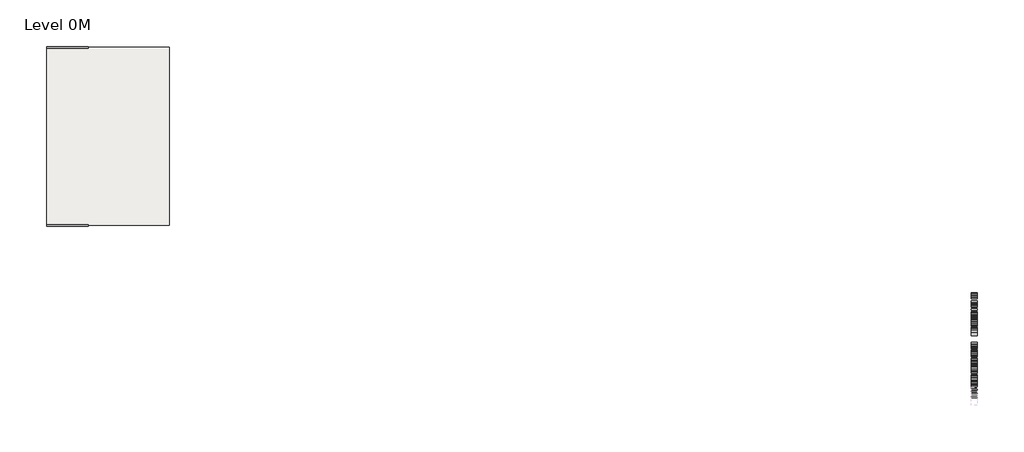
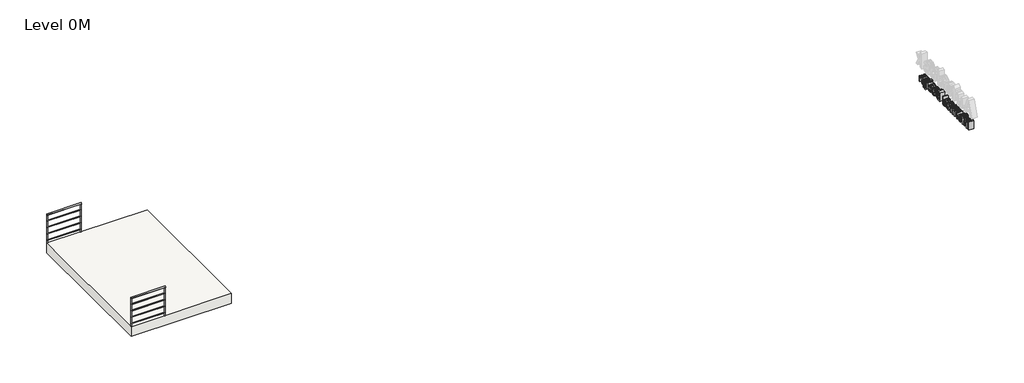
# One storey, part 1 of 2: 2 railings, 1 proxy, 1 slab.
"""IFC4 building model written with IfcOpenShell, lengths in millimetres."""

import ifcopenshell
import ifcopenshell.guid

model = None  # the IFC model being written
_history = None  # IfcOwnerHistory: only IFC2X3 demands one
_inside = {}  # id of a spatial element -> (the spatial element, [elements in it])
_under = {}  # id of a project, library or spatial element -> (it, [spatial elements below it])
_declared = {}  # id of a project -> (the project, [libraries it declares])
_typed = {}  # id of a type object -> (the type object, [elements of that type])
_made_of = {}  # id of a material, layer set ... -> (it, [elements and type objects made of it])


def new_model(schema):
    """Start an empty IFC model of exactly this schema.

    Asked for "IFC4X3", IfcOpenShell would pick the latest addendum, in which some entities
    have other attributes; the version numbers below select the first issue.
    IFC2X3 requires an IfcOwnerHistory on every rooted entity: one is made here for all.
    """
    global model, _history
    if schema == "IFC4X3":
        model = ifcopenshell.file(schema_version=(4, 3, 0, 0))
    else:
        model = ifcopenshell.file(schema=schema)
    _inside.clear()
    _under.clear()
    _declared.clear()
    _typed.clear()
    _made_of.clear()
    _history = None
    if model.schema == "IFC2X3":
        org = make("IfcOrganization", Name="unknown")
        user = make(
            "IfcPersonAndOrganization",
            ThePerson=make("IfcPerson", FamilyName="unknown"),
            TheOrganization=org,
        )
        app = make(
            "IfcApplication",
            ApplicationDeveloper=org,
            Version="unknown",
            ApplicationFullName="unknown",
            ApplicationIdentifier="unknown",
        )
        _history = make(
            "IfcOwnerHistory",
            OwningUser=user,
            OwningApplication=app,
            ChangeAction="ADDED",
            CreationDate=0,
        )
    return model


def make(cls, **values):
    """One entity of the class cls with the attributes given. An attribute that is None is left unset."""
    return model.create_entity(
        cls, **{name: value for name, value in values.items() if value is not None}
    )


def rooted(cls, **values):
    """An entity with a GlobalId (a new one), such as an element, a storey or a relation."""
    return make(cls, GlobalId=ifcopenshell.guid.new(), OwnerHistory=_history, **values)


def si_unit(unit_type, name, prefix=None):
    """IfcSIUnit, for example si_unit("LENGTHUNIT", "METRE", prefix="MILLI")."""
    return make("IfcSIUnit", UnitType=unit_type, Prefix=prefix, Name=name)


def assignment(units):
    """IfcUnitAssignment: the units of a project."""
    return None if units is None else make("IfcUnitAssignment", Units=units)


def point(xyz):
    """IfcCartesianPoint."""
    return None if xyz is None else make("IfcCartesianPoint", Coordinates=xyz)


def direction(xyz):
    """IfcDirection."""
    return None if xyz is None else make("IfcDirection", DirectionRatios=xyz)


def frame(location, z_axis=None, x_axis=None):
    """IfcAxis2Placement3D, a coordinate frame: its origin and axes. An axis left out is left unset."""
    return make(
        "IfcAxis2Placement3D",
        Location=point(location),
        Axis=direction(z_axis),
        RefDirection=direction(x_axis),
    )


def frame_2d(location, x_axis=None):
    """IfcAxis2Placement2D, a coordinate frame in the plane: its origin and x axis."""
    return make(
        "IfcAxis2Placement2D", Location=point(location), RefDirection=direction(x_axis)
    )


def origin():
    """The frame at (0, 0, 0) with its axes left unset."""
    return frame((0.0, 0.0, 0.0))


def place(relative_to, where):
    """IfcLocalPlacement: puts the frame where relative to a parent placement (None: the world)."""
    return make(
        "IfcLocalPlacement", PlacementRelTo=relative_to, RelativePlacement=where
    )


def context(
    kind, dimensions, precision=None, world=None, true_north=None, identifier=None
):
    """IfcGeometricRepresentationContext, for example the 3D "Model" context."""
    return make(
        "IfcGeometricRepresentationContext",
        ContextIdentifier=identifier,
        ContextType=kind,
        CoordinateSpaceDimension=dimensions,
        Precision=precision,
        WorldCoordinateSystem=world,
        TrueNorth=true_north,
    )


def project(units=None, contexts=None):
    """IfcProject with its units and contexts."""
    return rooted(
        "IfcProject",
        Name="project",
        RepresentationContexts=contexts,
        UnitsInContext=assignment(units),
    )


def spatial(cls, under=None, at=None, **own):
    """A site, building, storey or space (cls), placed at a placement, below another one or the project."""
    s = rooted(cls, ObjectPlacement=at, **own)
    if under is not None:
        _under.setdefault(under.id(), (under, []))[1].append(s)
    return s


def polyline(points):
    """IfcPolyline through the points."""
    return make("IfcPolyline", Points=[point(p) for p in points])


def circle_curve(where, radius):
    """IfcCircle in the frame where."""
    return make("IfcCircle", Position=where, Radius=radius)


def trimmed(basis, trim1, trim2, sense, master):
    """IfcTrimmedCurve: the piece of a basis curve between two trims."""
    return make(
        "IfcTrimmedCurve",
        BasisCurve=basis,
        Trim1=trim1,
        Trim2=trim2,
        SenseAgreement=sense,
        MasterRepresentation=master,
    )


def segment(curve, same_sense, transition):
    """IfcCompositeCurveSegment."""
    return make(
        "IfcCompositeCurveSegment",
        Transition=transition,
        SameSense=same_sense,
        ParentCurve=curve,
    )


def composite_curve(segments, self_intersect=None):
    """IfcCompositeCurve: segments joined end to end."""
    return make("IfcCompositeCurve", Segments=segments, SelfIntersect=self_intersect)


def outline(outer, holes=None, kind="AREA"):
    """IfcArbitraryClosedProfileDef: a profile drawn as a closed curve; with holes, ...WithVoids."""
    if holes is None:
        return make("IfcArbitraryClosedProfileDef", ProfileType=kind, OuterCurve=outer)
    return make(
        "IfcArbitraryProfileDefWithVoids",
        ProfileType=kind,
        OuterCurve=outer,
        InnerCurves=holes,
    )


def extrude(swept, where, along, depth):
    """IfcExtrudedAreaSolid: the profile swept, set in the frame where, extruded along a direction by depth."""
    return make(
        "IfcExtrudedAreaSolid",
        SweptArea=swept,
        Position=where,
        ExtrudedDirection=direction(along),
        Depth=depth,
    )


def shape(context_of_items, identifier, shape_type, items):
    """IfcShapeRepresentation: the items that make up one representation, for example the "Body"."""
    return make(
        "IfcShapeRepresentation",
        ContextOfItems=context_of_items,
        RepresentationIdentifier=identifier,
        RepresentationType=shape_type,
        Items=items,
    )


def made_of(thing, what):
    """Note that an element or type object is made of a material, layer set ...; save() writes the relation."""
    if what is not None:
        _made_of.setdefault(what.id(), (what, []))[1].append(thing)
    return thing


def element(
    cls,
    number,
    at=None,
    inside=None,
    cuts=None,
    type_object=None,
    material=None,
    context=None,
    identifier="Body",
    shape_type=None,
    held_by="IfcProductDefinitionShape",
    body=None,
    shapes=None,
    **own,
):
    """One element of the class cls, such as IfcWall. Its Tag is "e" and its number.

    at: its placement. inside: the storey or other place that contains it. cuts: it is an
    opening in that element (IfcRelVoidsElement). A single representation is given by context,
    identifier, shape_type and body (its items); several are given by shapes. held_by: the class
    of the entity that holds the representations. save() writes the other relations.
    """
    e = rooted(cls, Tag="e%d" % number, ObjectPlacement=at, **own)
    if body is not None:
        shapes = [shape(context, identifier, shape_type, body)]
    if shapes is not None:
        e.Representation = make(held_by, Representations=shapes)
    if inside is not None:
        _inside.setdefault(inside.id(), (inside, []))[1].append(e)
    if cuts is not None:
        rooted(
            "IfcRelVoidsElement", RelatingBuildingElement=cuts, RelatedOpeningElement=e
        )
    if type_object is not None:
        _typed.setdefault(type_object.id(), (type_object, []))[1].append(e)
    return made_of(e, material)


def aggregate(whole, parts):
    """IfcRelAggregates: a whole, such as a stair, and the parts it consists of."""
    return rooted("IfcRelAggregates", RelatingObject=whole, RelatedObjects=parts)


def save(model, path):
    """Write the relations noted so far, then the file.

    IfcRelAggregates (storeys below a building ...), IfcRelContainedInSpatialStructure (elements
    in a storey), IfcRelDefinesByType, IfcRelAssociatesMaterial and IfcRelDeclares: one each for
    every whole, place, type object, material and project.
    """
    for whole, parts in _under.values():
        aggregate(whole, parts)
    for where, things in _inside.values():
        rooted(
            "IfcRelContainedInSpatialStructure",
            RelatedElements=things,
            RelatingStructure=where,
        )
    for kind, things in _typed.values():
        rooted("IfcRelDefinesByType", RelatedObjects=things, RelatingType=kind)
    for what, things in _made_of.values():
        rooted("IfcRelAssociatesMaterial", RelatedObjects=things, RelatingMaterial=what)
    for by, libraries in _declared.values():
        rooted("IfcRelDeclares", RelatingContext=by, RelatedDefinitions=libraries)
    model.write(path)


model = new_model("IFC4")

# Units and contexts
model_context = context("Model", 3, world=origin())
ifc_project = project(units=[si_unit("LENGTHUNIT", "METRE", prefix="MILLI")], contexts=[model_context])

# Site, building, storey
site = spatial("IfcSite", under=ifc_project)
building = spatial("IfcBuilding", under=site)
storey = spatial("IfcBuildingStorey", under=building, Name="Level 0M", Elevation=1135.0)

# Proxy
placement = place(None, origin())
element("IfcBuildingElementProxy", 1, Name="250", ObjectType="250", at=placement, inside=storey, context=model_context, shape_type="SweptSolid", body=[
    extrude(outline(polyline([(17655.7942367, -2656.7308026), (17655.7942367, -2688.1233995), (17505.7942367, -2688.1233995), (17505.7942367, -2656.7308026), (17655.7942367, -2656.7308026)])), frame((0.0, 0.0, 1964.8009555), z_axis=(0.0, 0.0, 1.0), x_axis=(1.0, 0.0, 0.0)), (0.0, 0.0, 1.0), 251.1407754),
    extrude(outline(polyline([(-2597.8696834, 1964.8009555), (-2597.8696834, 2149.2324624), (-2566.4770865, 2149.2324624), (-2566.4770865, 2123.4807227), (-2555.5709182, 2136.4638915), (-2542.4727863, 2145.7375834), (-2527.1826909, 2151.3017986), (-2509.7006319, 2153.156537), (-2494.2265955, 2151.6620164), (-2480.0554744, 2147.1784546), (-2468.2372653, 2140.2653388), (-2459.8219647, 2131.4821561), (-2450.410317, 2108.3975609), (-2448.754848, 2078.0472963), (-2448.754848, 1964.8009555), (-2480.1474449, 1964.8009555), (-2480.1474449, 2073.8166534), (-2483.7649512, 2101.591744), (-2488.7696792, 2109.8614247), (-2496.5488506, 2116.276367), (-2518.1006041, 2121.7639401), (-2536.4870397, 2118.6829284), (-2552.1603455, 2109.4398932), (-2562.8979012, 2091.5822881), (-2566.4770865, 2062.6575662), (-2566.4770865, 1964.8009555), (-2597.8696834, 1964.8009555)])), frame((17505.7942367, 0.0, 0.0), z_axis=(1.0, 0.0, 0.0), x_axis=(0.0, 1.0, 0.0)), (0.0, 0.0, 1.0), 150.0),
    extrude(outline(polyline([(-2397.741878, 1964.8009555), (-2397.741878, 2117.8398655), (-2425.2104003, 2117.8398655), (-2425.2104003, 2149.2324624), (-2397.741878, 2149.2324624), (-2397.741878, 2167.8105031), (-2394.4309401, 2193.9914385), (-2388.1156325, 2204.4300901), (-2378.3667596, 2212.6921066), (-2364.724469, 2218.0723807), (-2346.728908, 2219.8658055), (-2318.0954261, 2216.4322402), (-2322.693951, 2187.0016806), (-2340.7814824, 2188.4732085), (-2352.7146547, 2187.1702931), (-2360.5551397, 2183.2615469), (-2364.9007457, 2175.7966081), (-2366.3492811, 2163.8251149), (-2366.3492811, 2149.2324624), (-2331.0326096, 2149.2324624), (-2331.0326096, 2117.8398655), (-2366.3492811, 2117.8398655), (-2366.3492811, 1964.8009555), (-2397.741878, 1964.8009555)])), frame((17505.7942367, 0.0, 0.0), z_axis=(1.0, 0.0, 0.0), x_axis=(0.0, 1.0, 0.0)), (0.0, 0.0, 1.0), 150.0),
    extrude(outline(polyline([(-2311.4122365, 2057.0167089), (-2309.7146144, 2080.9022139), (-2304.621748, 2101.4844451), (-2296.1336374, 2118.7634026), (-2284.2502825, 2132.7390863), (-2259.0810227, 2148.0521743), (-2228.9453559, 2153.156537), (-2211.6261613, 2151.6026188), (-2195.9662679, 2146.9408641), (-2181.9656755, 2139.171273), (-2169.6243842, 2128.2938455), (-2159.5516985, 2114.6764635), (-2152.356923, 2098.6870091), (-2148.0400577, 2080.3254822), (-2146.6011026, 2059.5918829), (-2149.1456198, 2027.8773892), (-2156.7791712, 2003.7351333), (-2169.2794948, 1985.6552661), (-2186.4243286, 1972.1279385), (-2206.7881299, 1963.6896453), (-2228.9453559, 1960.8768809), (-2246.5174693, 1962.4250509), (-2262.3229828, 1967.0695611), (-2276.3618962, 1974.8104114), (-2288.6342096, 1985.6476019), (-2298.5995964, 1999.3971914), (-2305.7177298, 2015.8752391), (-2309.9886098, 2035.081745), (-2311.4122365, 2057.0167089)]), holes=[polyline([(-2280.0196396, 2057.0780226), (-2276.3868049, 2028.6668027), (-2265.4883008, 2008.4256287), (-2249.0868951, 1996.3085155), (-2228.9453559, 1992.2694778), (-2208.8957872, 1996.3315081), (-2192.5250384, 2008.5175992), (-2181.6265343, 2029.0270205), (-2177.9936996, 2058.0590412), (-2181.6495269, 2085.6425267), (-2192.6170089, 2105.6077891), (-2209.0107503, 2117.7249023), (-2228.9453559, 2121.7639401), (-2249.0868951, 2117.7402308), (-2265.4883008, 2105.6691028), (-2276.3868049, 2085.4739141), (-2280.0196396, 2057.0780226)])]), frame((17505.7942367, 0.0, 0.0), z_axis=(1.0, 0.0, 0.0), x_axis=(0.0, 1.0, 0.0)), (0.0, 0.0, 1.0), 150.0),
    extrude(outline(polyline([(-2111.2844311, 1964.8009555), (-2111.2844311, 2149.2324624), (-2083.8159088, 2149.2324624), (-2083.8159088, 2121.9478811), (-2073.6684971, 2137.7668069), (-2064.3181631, 2147.0864841), (-2044.69779, 2153.156537), (-2029.0628052, 2150.7346472), (-2013.1825657, 2143.4689778), (-2023.6672026, 2115.3260052), (-2045.7401223, 2121.7639401), (-2055.113449, 2120.21577), (-2063.4904286, 2115.5712598), (-2074.8027999, 2098.4034334), (-2079.8918342, 2061.7378612), (-2079.8918342, 1964.8009555), (-2111.2844311, 1964.8009555)])), frame((17505.7942367, 0.0, 0.0), z_axis=(1.0, 0.0, 0.0), x_axis=(0.0, 1.0, 0.0)), (0.0, 0.0, 1.0), 150.0),
    extrude(outline(polyline([(-1993.5621927, 1964.8009555), (-1993.5621927, 2149.2324624), (-1962.1695957, 2149.2324624), (-1962.1695957, 2118.8821978), (-1952.7272912, 2132.8233926), (-1940.5871854, 2143.7448893), (-1926.1631455, 2150.8036251), (-1909.8690388, 2153.156537), (-1892.4099724, 2150.7576398), (-1878.4151282, 2143.5609483), (-1867.9611481, 2132.0416433), (-1861.1246744, 2116.6749058), (-1849.6820115, 2132.6356195), (-1836.6298649, 2144.0361292), (-1821.9682345, 2150.8764351), (-1805.6971205, 2153.156537), (-1782.0990233, 2149.3627539), (-1764.6476212, 2137.9814047), (-1753.8640802, 2118.705921), (-1750.2695665, 2091.2297345), (-1750.2695665, 1964.8009555), (-1781.6621634, 1964.8009555), (-1781.6621634, 2077.740728), (-1784.5745626, 2103.9523201), (-1795.1205131, 2116.8588468), (-1813.0547604, 2121.7639401), (-1830.0616384, 2118.6216147), (-1843.9261911, 2109.1946386), (-1853.1462336, 2092.8392182), (-1856.2195811, 2068.9115601), (-1856.2195811, 1964.8009555), (-1887.612178, 1964.8009555), (-1887.612178, 2081.2356069), (-1889.4285954, 2098.9859132), (-1894.8778475, 2111.6471852), (-1904.4657719, 2119.2347514), (-1918.6982066, 2121.7639401), (-1930.7923272, 2120.0778143), (-1941.936086, 2115.0194368), (-1951.1331359, 2106.7114351), (-1957.3871298, 2095.2764364), (-1962.1695957, 2057.8137866), (-1962.1695957, 1964.8009555), (-1993.5621927, 1964.8009555)])), frame((17505.7942367, 0.0, 0.0), z_axis=(1.0, 0.0, 0.0), x_axis=(0.0, 1.0, 0.0)), (0.0, 0.0, 1.0), 150.0),
    extrude(outline(polyline([(-1574.0540908, 2019.7380001), (-1543.2746306, 2015.8139255), (-1554.3647399, 1992.6220314), (-1572.0613967, 1975.2855923), (-1595.9660622, 1964.4790587), (-1625.6801975, 1960.8768809), (-1645.1587827, 1962.4307991), (-1662.5143822, 1967.0925537), (-1677.7469961, 1974.8621448), (-1690.8566243, 1985.7395724), (-1701.3987427, 1999.4221001), (-1708.9288273, 2015.6069918), (-1713.4468781, 2034.2942476), (-1714.952895, 2055.4838673), (-1713.4315496, 2077.3920065), (-1708.8675136, 2096.7019792), (-1701.260787, 2113.4137852), (-1690.6113696, 2127.5274247), (-1677.5362304, 2138.7401613), (-1662.652338, 2146.7492589), (-1645.9596925, 2151.5547175), (-1627.4582938, 2153.156537), (-1609.5527873, 2151.5585496), (-1593.3602314, 2146.7645873), (-1578.880626, 2138.7746503), (-1566.1139711, 2127.5887383), (-1555.6925639, 2113.5057557), (-1548.2487017, 2096.8246065), (-1543.7823844, 2077.5452907), (-1542.2936119, 2055.6678083), (-1542.4775529, 2047.2065224), (-1683.5602981, 2047.2065224), (-1678.1263744, 2023.70806), (-1665.5034235, 2006.4329346), (-1647.2856005, 1995.810342), (-1625.0670608, 1992.2694778), (-1608.3590869, 1993.9096183), (-1594.2876006, 1998.83004), (-1582.8526019, 2007.3373112), (-1574.0540908, 2019.7380001)]), holes=[polyline([(-1683.5602981, 2078.5991193), (-1573.6862088, 2078.5991193), (-1577.9321802, 2095.1844659), (-1586.2555103, 2107.0486603), (-1604.5576396, 2118.0851201), (-1627.5809211, 2121.7639401), (-1648.7418001, 2118.8285483), (-1666.2391874, 2110.0223731), (-1678.4022859, 2096.2957761), (-1683.5602981, 2078.5991193)])]), frame((17505.7942367, 0.0, 0.0), z_axis=(1.0, 0.0, 0.0), x_axis=(0.0, 1.0, 0.0)), (0.0, 0.0, 1.0), 150.0),
    extrude(outline(polyline([(-1397.1028511, 1964.8009555), (-1397.1028511, 1994.4154561), (-1406.4953383, 1979.7423294), (-1417.8728555, 1969.2615247), (-1431.2354025, 1962.9730418), (-1446.5829795, 1960.8768809), (-1466.8778029, 1963.9119073), (-1485.4558437, 1973.0169867), (-1501.1827989, 1987.5559897), (-1512.924366, 2006.8927871), (-1520.2360206, 2030.2456296), (-1522.6732388, 2056.8327679), (-1520.4276258, 2083.0903453), (-1513.6907868, 2106.8034056), (-1502.4703859, 2126.6230481), (-1486.7740875, 2141.2003722), (-1467.7898437, 2150.1674958), (-1446.7056068, 2153.156537), (-1431.3465335, 2151.0182229), (-1417.7655565, 2144.6032806), (-1406.2539158, 2134.7701015), (-1397.1028511, 2122.3770767), (-1397.1028511, 2215.9417308), (-1365.7102542, 2215.9417308), (-1365.7102542, 1964.8009555), (-1397.1028511, 1964.8009555)]), holes=[polyline([(-1491.2806419, 2056.9553953), (-1487.7397777, 2028.5595038), (-1477.1171851, 2008.3643151), (-1461.6814697, 1996.2931871), (-1443.7012372, 1992.2694778), (-1425.7286689, 1996.1092461), (-1410.6838281, 2007.6285511), (-1400.4980954, 2027.0419905), (-1397.1028511, 2054.5641623), (-1400.5594091, 2084.6538438), (-1410.9290828, 2105.5158186), (-1426.357134, 2117.7019097), (-1444.9888242, 2121.7639401), (-1463.1529977, 2117.8628581), (-1478.0368901, 2106.1596121), (-1487.969704, 2086.0563939), (-1491.2806419, 2056.9553953)])]), frame((17505.7942367, 0.0, 0.0), z_axis=(1.0, 0.0, 0.0), x_axis=(0.0, 1.0, 0.0)), (0.0, 0.0, 1.0), 150.0),
    extrude(outline(polyline([(-1216.5954188, 1964.8009555), (-1216.5954188, 2215.9417308), (-1129.959209, 2215.9417308), (-1085.1389192, 2212.3242246), (-1065.1200073, 2205.3497951), (-1048.2280924, 2194.3593205), (-1030.8609965, 2175.2294567), (-1018.4909644, 2151.4397544), (-1011.0873393, 2123.4500659), (-1008.6194642, 2091.7202438), (-1010.2902616, 2064.7652235), (-1015.3026538, 2041.044499), (-1022.9362052, 2020.8493103), (-1032.4704803, 2004.4708973), (-1055.4017913, 1981.6928704), (-1085.4148307, 1969.0929121), (-1125.7898797, 1964.8009555), (-1216.5954188, 1964.8009555)]), holes=[polyline([(-1185.2028219, 1996.1935524), (-1129.6526406, 1996.1935524), (-1089.2469348, 2000.7307637), (-1065.9477418, 2013.5453198), (-1055.0415735, 2027.133961), (-1046.8485349, 2044.7233189), (-1041.7211796, 2066.3900356), (-1040.0120612, 2092.2107531), (-1043.3613202, 2126.4237787), (-1053.4090971, 2151.685009), (-1068.2546685, 2169.0367765), (-1085.9973106, 2179.5214133), (-1104.0541852, 2183.2922038), (-1130.511032, 2184.5491339), (-1185.2028219, 2184.5491339), (-1185.2028219, 1996.1935524)])]), frame((17505.7942367, 0.0, 0.0), z_axis=(1.0, 0.0, 0.0), x_axis=(0.0, 1.0, 0.0)), (0.0, 0.0, 1.0), 150.0),
    extrude(outline(polyline([(-840.2521378, 2019.7380001), (-809.4726775, 2015.8139255), (-820.5627868, 1992.6220314), (-838.2594436, 1975.2855923), (-862.1641091, 1964.4790587), (-891.8782444, 1960.8768809), (-911.3568297, 1962.4307991), (-928.7124292, 1967.0925537), (-943.9450431, 1974.8621448), (-957.0546712, 1985.7395724), (-967.5967897, 1999.4221001), (-975.1268743, 2015.6069918), (-979.644925, 2034.2942476), (-981.1509419, 2055.4838673), (-979.6295966, 2077.3920065), (-975.0655606, 2096.7019792), (-967.4588339, 2113.4137852), (-956.8094166, 2127.5274247), (-943.7342773, 2138.7401613), (-928.8503849, 2146.7492589), (-912.1577394, 2151.5547175), (-893.6563407, 2153.156537), (-875.7508343, 2151.5585496), (-859.5582783, 2146.7645873), (-845.0786729, 2138.7746503), (-832.312018, 2127.5887383), (-821.8906109, 2113.5057557), (-814.4467487, 2096.8246065), (-809.9804313, 2077.5452907), (-808.4916589, 2055.6678083), (-808.6755999, 2047.2065224), (-949.758345, 2047.2065224), (-944.3244214, 2023.70806), (-931.7014704, 2006.4329346), (-913.4836474, 1995.810342), (-891.2651078, 1992.2694778), (-874.5571338, 1993.9096183), (-860.4856475, 1998.83004), (-849.0506488, 2007.3373112), (-840.2521378, 2019.7380001)]), holes=[polyline([(-949.758345, 2078.5991193), (-839.8842558, 2078.5991193), (-844.1302271, 2095.1844659), (-852.4535573, 2107.0486603), (-870.7556865, 2118.0851201), (-893.7789681, 2121.7639401), (-914.939847, 2118.8285483), (-932.4372344, 2110.0223731), (-944.6003329, 2096.2957761), (-949.758345, 2078.5991193)])]), frame((17505.7942367, 0.0, 0.0), z_axis=(1.0, 0.0, 0.0), x_axis=(0.0, 1.0, 0.0)), (0.0, 0.0, 1.0), 150.0),
    extrude(outline(polyline([(-788.8712858, 2019.7380001), (-757.4786889, 2023.6620747), (-752.5276103, 2010.2343819), (-742.9473501, 2000.3628817), (-728.6765943, 1994.2928288), (-709.6540295, 1992.2694778), (-690.8613909, 1994.1242162), (-677.6482959, 1999.6884313), (-669.8308035, 2007.7511784), (-667.2249727, 2017.1015125), (-669.8461319, 2025.1029458), (-677.7096096, 2031.2036556), (-710.0219115, 2040.1554508), (-757.2947479, 2055.5145241), (-769.2585769, 2063.2323818), (-777.9267964, 2073.4487714), (-783.1921075, 2085.5122351), (-784.9472112, 2098.7713154), (-779.3063539, 2122.1624789), (-763.9166238, 2140.0354125), (-743.9590255, 2149.3244329), (-716.9503557, 2153.156537), (-696.5175766, 2151.6160311), (-678.7519419, 2146.9945136), (-664.4658577, 2139.7441726), (-654.4717302, 2130.3171965), (-647.8498543, 2118.0161423), (-643.680525, 2102.143567), (-675.0731219, 2098.2194924), (-679.0355176, 2108.0986568), (-686.8760026, 2115.540603), (-698.6712191, 2120.2081058), (-714.4978091, 2121.7639401), (-732.5240269, 2120.2770837), (-744.5415054, 2115.8165145), (-751.301337, 2109.3785796), (-753.5546142, 2101.959626), (-749.8144806, 2092.8238898), (-738.1035704, 2085.8954456), (-711.0642438, 2079.212256), (-664.9870239, 2064.4356625), (-652.8162612, 2057.3692625), (-643.5885545, 2047.6970317), (-637.7714205, 2035.3883133), (-635.8323758, 2020.4124504), (-638.1086456, 2004.9307498), (-644.9374552, 1990.3687541), (-656.0582213, 1977.8684305), (-671.210361, 1968.5717459), (-689.5124903, 1962.8005971), (-710.0832252, 1960.8768809), (-741.7364052, 1964.5863576), (-764.8363288, 1975.714788), (-780.2567157, 1994.1395446), (-788.8712858, 2019.7380001)])), frame((17505.7942367, 0.0, 0.0), z_axis=(1.0, 0.0, 0.0), x_axis=(0.0, 1.0, 0.0)), (0.0, 0.0, 1.0), 150.0),
    extrude(outline(polyline([(17655.7942367, -569.1231073), (17655.7942367, -600.5157043), (17505.7942367, -600.5157043), (17505.7942367, -569.1231073), (17655.7942367, -569.1231073)])), frame((0.0, 0.0, 2184.5491339), z_axis=(0.0, 0.0, 1.0), x_axis=(1.0, 0.0, 0.0)), (0.0, 0.0, 1.0), 31.3925969),
    extrude(outline(polyline([(17655.7942367, -569.1231073), (17655.7942367, -600.5157043), (17505.7942367, -600.5157043), (17505.7942367, -569.1231073), (17655.7942367, -569.1231073)])), frame((0.0, 0.0, 1964.8009555), z_axis=(0.0, 0.0, 1.0), x_axis=(1.0, 0.0, 0.0)), (0.0, 0.0, 1.0), 184.4315069),
    extrude(outline(polyline([(-529.8823612, 1949.104657), (-498.4897643, 1945.1805824), (-495.0255421, 1935.3703959), (-488.3116957, 1928.6258926), (-475.1139291, 1923.3835742), (-457.8388038, 1921.6361347), (-439.4140472, 1923.6135004), (-425.7104429, 1929.5455976), (-416.2068247, 1939.0492158), (-410.3820264, 1951.7411446), (-408.2360481, 1988.3454032), (-430.3396247, 1970.6870674), (-457.2869808, 1964.8009555), (-474.4988764, 1966.513906), (-489.6529322, 1971.6527576), (-502.749148, 1980.2175103), (-513.7875239, 1992.2081641), (-528.8017078, 2022.3438309), (-533.8064358, 2057.9364139), (-531.5608228, 2083.2819505), (-524.8239837, 2106.5888078), (-513.8335091, 2126.3394724), (-498.8269894, 2141.0164312), (-480.3179265, 2150.1215105), (-458.8198224, 2153.156537), (-444.1390316, 2151.4397544), (-430.8148056, 2146.2894064), (-418.8471444, 2137.7054932), (-408.2360481, 2125.6880147), (-408.2360481, 2149.2324624), (-376.8434512, 2149.2324624), (-376.8434512, 1990.0008721), (-378.9894295, 1953.2356652), (-385.4273644, 1929.0244314), (-396.5174737, 1912.9679152), (-412.6199752, 1900.666861), (-433.3823153, 1892.8493686), (-458.4519404, 1890.2435378), (-487.660238, 1893.9146935), (-510.6605269, 1904.9281608), (-525.4141278, 1923.3145963), (-529.8823612, 1949.104657)]), holes=[polyline([(-502.4138389, 2060.0823922), (-499.0645799, 2031.2879619), (-489.0168029, 2011.491312), (-473.9106485, 2000.0179923), (-455.3862572, 1996.1935524), (-436.9998216, 1999.9949997), (-421.8170251, 2011.3993415), (-411.6312924, 2030.9430725), (-408.2360481, 2059.1626872), (-411.7309271, 2086.3782907), (-422.2155639, 2105.9756711), (-437.6206225, 2117.8168728), (-455.8767665, 2121.7639401), (-473.8033495, 2117.8781865), (-488.8328619, 2106.2209258), (-499.0185946, 2086.9147852), (-502.4138389, 2060.0823922)])]), frame((17505.7942367, 0.0, 0.0), z_axis=(1.0, 0.0, 0.0), x_axis=(0.0, 1.0, 0.0)), (0.0, 0.0, 1.0), 150.0),
    extrude(outline(polyline([(-329.7545558, 1964.8009555), (-329.7545558, 2149.2324624), (-298.3619589, 2149.2324624), (-298.3619589, 2123.4807227), (-287.4557906, 2136.4638915), (-274.3576587, 2145.7375834), (-259.0675633, 2151.3017986), (-241.5855043, 2153.156537), (-226.1114679, 2151.6620164), (-211.9403468, 2147.1784546), (-200.1221378, 2140.2653388), (-191.7068371, 2131.4821561), (-182.2951894, 2108.3975609), (-180.6397204, 2078.0472963), (-180.6397204, 1964.8009555), (-212.0323173, 1964.8009555), (-212.0323173, 2073.8166534), (-215.6498236, 2101.591744), (-220.6545516, 2109.8614247), (-228.433723, 2116.276367), (-249.9854765, 2121.7639401), (-268.3719121, 2118.6829284), (-284.0452179, 2109.4398932), (-294.7827736, 2091.5822881), (-298.3619589, 2062.6575662), (-298.3619589, 1964.8009555), (-329.7545558, 1964.8009555)])), frame((17505.7942367, 0.0, 0.0), z_axis=(1.0, 0.0, 0.0), x_axis=(0.0, 1.0, 0.0)), (0.0, 0.0, 1.0), 150.0),
])

# Railings
element("IfcRailing", 2, ObjectType="900mm_Pipe", at=placement, inside=storey, context=model_context, shape_type="SweptSolid", body=[
    extrude(outline(composite_curve([segment(trimmed(circle_curve(frame_2d((5673.9025486, 2015.0)), 20.0), [point((5653.9025486, 2015.0))], [point((5693.9025486, 2015.0))], False, "CARTESIAN"), True, "CONTINUOUS"), segment(trimmed(circle_curve(frame_2d((5673.9025486, 2015.0)), 20.0), [point((5693.9025486, 2015.0))], [point((5653.9025486, 2015.0))], False, "CARTESIAN"), True, "CONTINUOUS")], self_intersect=False)), frame((-4569.2057633, 0.0, 0.0), z_axis=(1.0, 0.0, 0.0), x_axis=(0.0, 1.0, 0.0)), (0.0, 0.0, 1.0), 1000.0),
    extrude(outline(composite_curve([segment(trimmed(circle_curve(frame_2d((5673.9025486, 1825.0)), 10.0), [point((5683.9025486, 1825.0))], [point((5663.9025486, 1825.0))], False, "CARTESIAN"), True, "CONTINUOUS"), segment(trimmed(circle_curve(frame_2d((5673.9025486, 1825.0)), 10.0), [point((5663.9025486, 1825.0))], [point((5683.9025486, 1825.0))], False, "CARTESIAN"), True, "CONTINUOUS")], self_intersect=False)), frame((-4569.2057633, 0.0, 0.0), z_axis=(1.0, 0.0, 0.0), x_axis=(0.0, 1.0, 0.0)), (0.0, 0.0, 1.0), 1000.0),
    extrude(outline(composite_curve([segment(trimmed(circle_curve(frame_2d((5673.9025486, 1625.0)), 10.0), [point((5683.9025486, 1625.0))], [point((5663.9025486, 1625.0))], False, "CARTESIAN"), True, "CONTINUOUS"), segment(trimmed(circle_curve(frame_2d((5673.9025486, 1625.0)), 10.0), [point((5663.9025486, 1625.0))], [point((5683.9025486, 1625.0))], False, "CARTESIAN"), True, "CONTINUOUS")], self_intersect=False)), frame((-4569.2057633, 0.0, 0.0), z_axis=(1.0, 0.0, 0.0), x_axis=(0.0, 1.0, 0.0)), (0.0, 0.0, 1.0), 1000.0),
    extrude(outline(composite_curve([segment(trimmed(circle_curve(frame_2d((5673.9025486, 1425.0)), 10.0), [point((5683.9025486, 1425.0))], [point((5663.9025486, 1425.0))], False, "CARTESIAN"), True, "CONTINUOUS"), segment(trimmed(circle_curve(frame_2d((5673.9025486, 1425.0)), 10.0), [point((5663.9025486, 1425.0))], [point((5683.9025486, 1425.0))], False, "CARTESIAN"), True, "CONTINUOUS")], self_intersect=False)), frame((-4569.2057633, 0.0, 0.0), z_axis=(1.0, 0.0, 0.0), x_axis=(0.0, 1.0, 0.0)), (0.0, 0.0, 1.0), 1000.0),
    extrude(outline(composite_curve([segment(trimmed(circle_curve(frame_2d((5673.9025486, 1225.0)), 10.0), [point((5683.9025486, 1225.0))], [point((5663.9025486, 1225.0))], False, "CARTESIAN"), True, "CONTINUOUS"), segment(trimmed(circle_curve(frame_2d((5673.9025486, 1225.0)), 10.0), [point((5663.9025486, 1225.0))], [point((5683.9025486, 1225.0))], False, "CARTESIAN"), True, "CONTINUOUS")], self_intersect=False)), frame((-4569.2057633, 0.0, 0.0), z_axis=(1.0, 0.0, 0.0), x_axis=(0.0, 1.0, 0.0)), (0.0, 0.0, 1.0), 1000.0),
    extrude(outline(composite_curve([segment(trimmed(circle_curve(frame_2d((-3581.7057633, 5673.9025486)), 12.5), [point((-3581.7057633, 5686.4025486))], [point((-3581.7057633, 5661.4025486))], False, "CARTESIAN"), True, "CONTINUOUS"), segment(trimmed(circle_curve(frame_2d((-3581.7057633, 5673.9025486)), 12.5), [point((-3581.7057633, 5661.4025486))], [point((-3581.7057633, 5686.4025486))], False, "CARTESIAN"), True, "CONTINUOUS")], self_intersect=False)), frame((0.0, 0.0, 1135.0), z_axis=(0.0, 0.0, 1.0), x_axis=(1.0, 0.0, 0.0)), (0.0, 0.0, 1.0), 860.0),
    extrude(outline(composite_curve([segment(trimmed(circle_curve(frame_2d((-4556.7057633, 5673.9025486)), 12.5), [point((-4556.7057633, 5686.4025486))], [point((-4556.7057633, 5661.4025486))], False, "CARTESIAN"), True, "CONTINUOUS"), segment(trimmed(circle_curve(frame_2d((-4556.7057633, 5673.9025486)), 12.5), [point((-4556.7057633, 5661.4025486))], [point((-4556.7057633, 5686.4025486))], False, "CARTESIAN"), True, "CONTINUOUS")], self_intersect=False)), frame((0.0, 0.0, 1135.0), z_axis=(0.0, 0.0, 1.0), x_axis=(1.0, 0.0, 0.0)), (0.0, 0.0, 1.0), 860.0),
])
element("IfcRailing", 3, ObjectType="900mm_Pipe", at=placement, inside=storey, context=model_context, shape_type="SweptSolid", body=[
    extrude(outline(composite_curve([segment(trimmed(circle_curve(frame_2d((1424.3025492, 2015.0)), 20.0), [point((1404.3025492, 2015.0))], [point((1444.3025492, 2015.0))], False, "CARTESIAN"), True, "CONTINUOUS"), segment(trimmed(circle_curve(frame_2d((1424.3025492, 2015.0)), 20.0), [point((1444.3025492, 2015.0))], [point((1404.3025492, 2015.0))], False, "CARTESIAN"), True, "CONTINUOUS")], self_intersect=False)), frame((-4569.2057633, 0.0, 0.0), z_axis=(1.0, 0.0, 0.0), x_axis=(0.0, 1.0, 0.0)), (0.0, 0.0, 1.0), 1000.0),
    extrude(outline(composite_curve([segment(trimmed(circle_curve(frame_2d((1424.3025492, 1825.0)), 10.0), [point((1434.3025492, 1825.0))], [point((1414.3025492, 1825.0))], False, "CARTESIAN"), True, "CONTINUOUS"), segment(trimmed(circle_curve(frame_2d((1424.3025492, 1825.0)), 10.0), [point((1414.3025492, 1825.0))], [point((1434.3025492, 1825.0))], False, "CARTESIAN"), True, "CONTINUOUS")], self_intersect=False)), frame((-4569.2057633, 0.0, 0.0), z_axis=(1.0, 0.0, 0.0), x_axis=(0.0, 1.0, 0.0)), (0.0, 0.0, 1.0), 1000.0),
    extrude(outline(composite_curve([segment(trimmed(circle_curve(frame_2d((1424.3025492, 1625.0)), 10.0), [point((1434.3025492, 1625.0))], [point((1414.3025492, 1625.0))], False, "CARTESIAN"), True, "CONTINUOUS"), segment(trimmed(circle_curve(frame_2d((1424.3025492, 1625.0)), 10.0), [point((1414.3025492, 1625.0))], [point((1434.3025492, 1625.0))], False, "CARTESIAN"), True, "CONTINUOUS")], self_intersect=False)), frame((-4569.2057633, 0.0, 0.0), z_axis=(1.0, 0.0, 0.0), x_axis=(0.0, 1.0, 0.0)), (0.0, 0.0, 1.0), 1000.0),
    extrude(outline(composite_curve([segment(trimmed(circle_curve(frame_2d((1424.3025492, 1425.0)), 10.0), [point((1434.3025492, 1425.0))], [point((1414.3025492, 1425.0))], False, "CARTESIAN"), True, "CONTINUOUS"), segment(trimmed(circle_curve(frame_2d((1424.3025492, 1425.0)), 10.0), [point((1414.3025492, 1425.0))], [point((1434.3025492, 1425.0))], False, "CARTESIAN"), True, "CONTINUOUS")], self_intersect=False)), frame((-4569.2057633, 0.0, 0.0), z_axis=(1.0, 0.0, 0.0), x_axis=(0.0, 1.0, 0.0)), (0.0, 0.0, 1.0), 1000.0),
    extrude(outline(composite_curve([segment(trimmed(circle_curve(frame_2d((1424.3025492, 1225.0)), 10.0), [point((1434.3025492, 1225.0))], [point((1414.3025492, 1225.0))], False, "CARTESIAN"), True, "CONTINUOUS"), segment(trimmed(circle_curve(frame_2d((1424.3025492, 1225.0)), 10.0), [point((1414.3025492, 1225.0))], [point((1434.3025492, 1225.0))], False, "CARTESIAN"), True, "CONTINUOUS")], self_intersect=False)), frame((-4569.2057633, 0.0, 0.0), z_axis=(1.0, 0.0, 0.0), x_axis=(0.0, 1.0, 0.0)), (0.0, 0.0, 1.0), 1000.0),
    extrude(outline(composite_curve([segment(trimmed(circle_curve(frame_2d((-3581.7057633, 1424.3025492)), 12.5), [point((-3581.7057633, 1436.8025492))], [point((-3581.7057633, 1411.8025492))], False, "CARTESIAN"), True, "CONTINUOUS"), segment(trimmed(circle_curve(frame_2d((-3581.7057633, 1424.3025492)), 12.5), [point((-3581.7057633, 1411.8025492))], [point((-3581.7057633, 1436.8025492))], False, "CARTESIAN"), True, "CONTINUOUS")], self_intersect=False)), frame((0.0, 0.0, 1135.0), z_axis=(0.0, 0.0, 1.0), x_axis=(1.0, 0.0, 0.0)), (0.0, 0.0, 1.0), 860.0),
    extrude(outline(composite_curve([segment(trimmed(circle_curve(frame_2d((-4556.7057633, 1424.3025492)), 12.5), [point((-4556.7057633, 1436.8025492))], [point((-4556.7057633, 1411.8025492))], False, "CARTESIAN"), True, "CONTINUOUS"), segment(trimmed(circle_curve(frame_2d((-4556.7057633, 1424.3025492)), 12.5), [point((-4556.7057633, 1411.8025492))], [point((-4556.7057633, 1436.8025492))], False, "CARTESIAN"), True, "CONTINUOUS")], self_intersect=False)), frame((0.0, 0.0, 1135.0), z_axis=(0.0, 0.0, 1.0), x_axis=(1.0, 0.0, 0.0)), (0.0, 0.0, 1.0), 860.0),
])

# Slab
element("IfcSlab", 4, ObjectType="Flr-Int-300mm", at=placement, inside=storey, context=model_context, shape_type="SweptSolid", body=[
    extrude(outline(polyline([(-1644.2223222, 5673.9025486), (-1644.2223222, 1424.3025492), (-4569.2057633, 1424.3025492), (-4569.2057633, 5673.9025486), (-1644.2223222, 5673.9025486)])), frame((0.0, 0.0, 835.0), z_axis=(0.0, 0.0, 1.0), x_axis=(1.0, 0.0, 0.0)), (0.0, 0.0, 1.0), 300.0),
])

save(model, "model.ifc")
